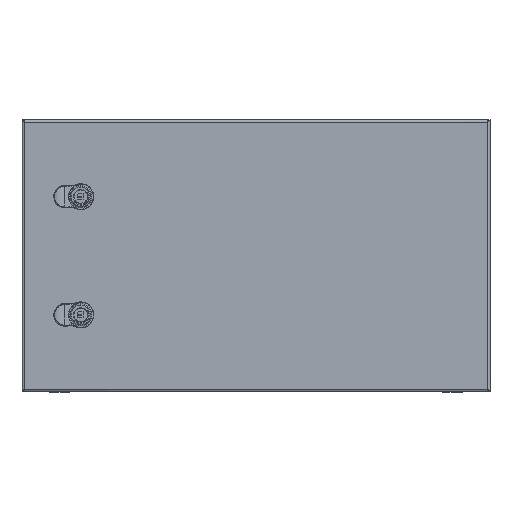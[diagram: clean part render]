
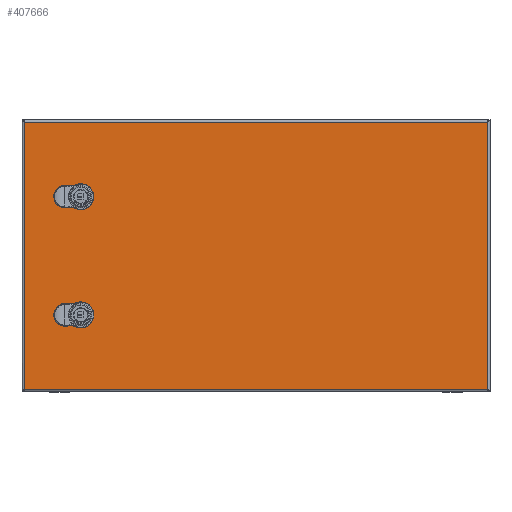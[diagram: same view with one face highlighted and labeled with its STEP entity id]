
A CAD part, top view. The second image highlights one B-rep face of the part: STEP entity #407666.
In plain terms, the highlighted planar face has unit normal (0, 0, 1).
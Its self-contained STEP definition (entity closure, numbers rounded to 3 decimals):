
#401916=CARTESIAN_POINT(' ',(284.635,176.56,228.253));
#401917=VERTEX_POINT(' ',#401916);
#402581=CARTESIAN_POINT(' ',(284.635,-162.84,228.253));
#402582=VERTEX_POINT(' ',#402581);
#403426=CARTESIAN_POINT(' ',(284.635,176.56,228.253));
#403431=DIRECTION(' ',(0.,-1.,0.));
#403436=VECTOR(' ',#403431,1.);
#403441=LINE('',#403426,#403436);
#403446=EDGE_CURVE(' ',#401917,#402582,#403441,.T.);
#405431=CARTESIAN_POINT(' ',(-303.765,-162.84,228.253));
#405432=VERTEX_POINT(' ',#405431);
#405866=CARTESIAN_POINT(' ',(-303.765,176.56,228.253));
#405867=VERTEX_POINT(' ',#405866);
#407536=DIRECTION(' ',(-0.,-0.,1.));
#407541=CARTESIAN_POINT(' ',(284.635,-162.84,228.253));
#407546=DIRECTION(' ',(0.,1.,0.));
#407551=AXIS2_PLACEMENT_3D(' ',#407541,#407536,#407546);
#407556=PLANE('NONE',#407551);
#407561=CARTESIAN_POINT(' ',(-303.765,-162.84,228.253));
#407566=DIRECTION(' ',(1.,0.,0.));
#407571=VECTOR(' ',#407566,1.);
#407576=LINE('',#407561,#407571);
#407581=EDGE_CURVE(' ',#405432,#402582,#407576,.T.);
#407586=ORIENTED_EDGE(' ',*,*,#407581,.T.);
#407591=ORIENTED_EDGE(' ',*,*,#403446,.F.);
#407596=CARTESIAN_POINT(' ',(284.635,176.56,228.253));
#407601=DIRECTION(' ',(-1.,0.,0.));
#407606=VECTOR(' ',#407601,1.);
#407611=LINE('',#407596,#407606);
#407616=EDGE_CURVE(' ',#401917,#405867,#407611,.T.);
#407621=ORIENTED_EDGE(' ',*,*,#407616,.T.);
#407626=CARTESIAN_POINT(' ',(-303.765,176.56,228.253));
#407631=DIRECTION(' ',(0.,-1.,0.));
#407636=VECTOR(' ',#407631,1.);
#407641=LINE('',#407626,#407636);
#407646=EDGE_CURVE(' ',#405867,#405432,#407641,.T.);
#407651=ORIENTED_EDGE(' ',*,*,#407646,.T.);
#407656=EDGE_LOOP(' ',(#407586,#407591,#407621,#407651));
#407661=FACE_OUTER_BOUND(' ',#407656,.T.);
#407666=ADVANCED_FACE('NONE',(#407661),#407556,.T.);
